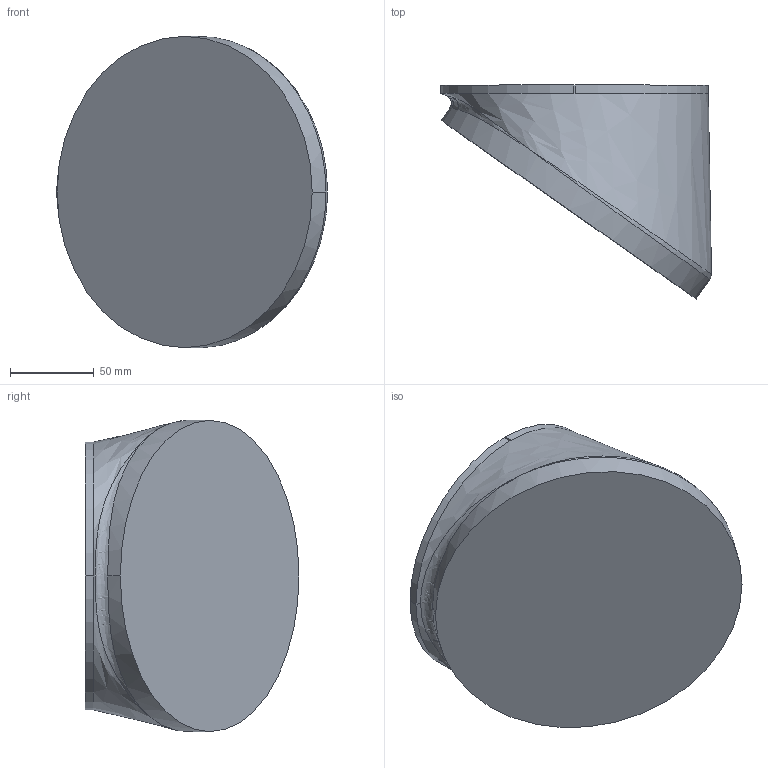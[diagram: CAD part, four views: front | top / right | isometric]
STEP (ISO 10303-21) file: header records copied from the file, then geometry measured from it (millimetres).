
FILE_DESCRIPTION (( 'STEP AP214' ), '1' );
FILE_NAME ('IRB5500-22_Link4_CAD.STEP', '2018-07-03T05:56:56', ( 'ABB' ), ( 'ABB' ), 'SwSTEP 2.0', 'SolidWorks 2016', '' );
FILE_SCHEMA (( 'AUTOMOTIVE_DESIGN' ));
Length unit declared in the file: millimetre
Products named in the file (2): IRB5500-22_Link4_CAD
Bounding box: 161.89 x 127.76 x 186 mm (x, y, z)
Volume: 1686583.1 mm3; surface area: 88244.2 mm2
Topology: 1 solids, 1 shells, 15 faces, 37 edges, 20 vertices
Faces by surface type: plane 6, cylinder 5, bspline 4
Entity records: 13732 total; most frequent: CARTESIAN_POINT 13214, ORIENTED_EDGE 66, DIRECTION 58, EDGE_CURVE 33, AXIS2_PLACEMENT_3D 21, VERTEX_POINT 20, UNCERTAINTY_MEASURE_WITH_UNIT 18, STYLED_ITEM 17
